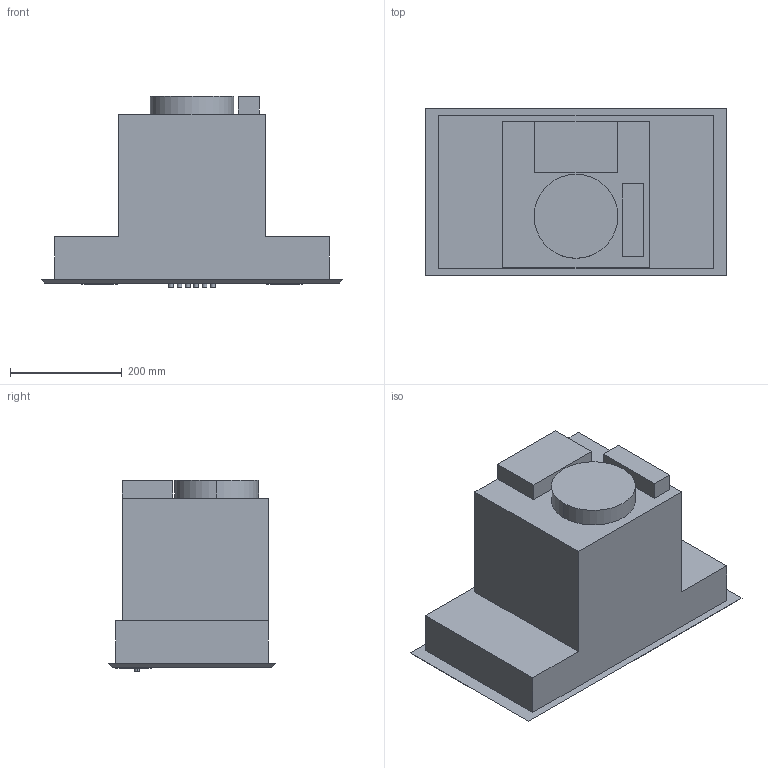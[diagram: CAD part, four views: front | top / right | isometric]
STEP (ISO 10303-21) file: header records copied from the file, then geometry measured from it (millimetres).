
FILE_DESCRIPTION(('CATIA V5 STEP Exchange'),'2;1');
FILE_NAME('C:\Users\linop\Desktop\KSEG58PXE.stp','2018-06-04T15:01:09+00:00',('none'),('none'),'CATIA Version 5-6 Release 2014','CATIA V5 STEP AP203','none');
FILE_SCHEMA(('CONFIG_CONTROL_DESIGN'));
Length unit declared in the file: millimetre
Products named in the file (1): KSEG58PXE
Bounding box: 539.6 x 299.6 x 342 mm (x, y, z)
Volume: 26880368.8 mm3; surface area: 768371.3 mm2
Topology: 1 solids, 1 shells, 73 faces, 162 edges, 108 vertices
Faces by surface type: plane 47, cylinder 26
Entity records: 1883 total; most frequent: ORIENTED_EDGE 324, CARTESIAN_POINT 322, DIRECTION 252, EDGE_CURVE 162, VERTEX_POINT 108, VECTOR 106, LINE 106, AXIS2_PLACEMENT_3D 100
